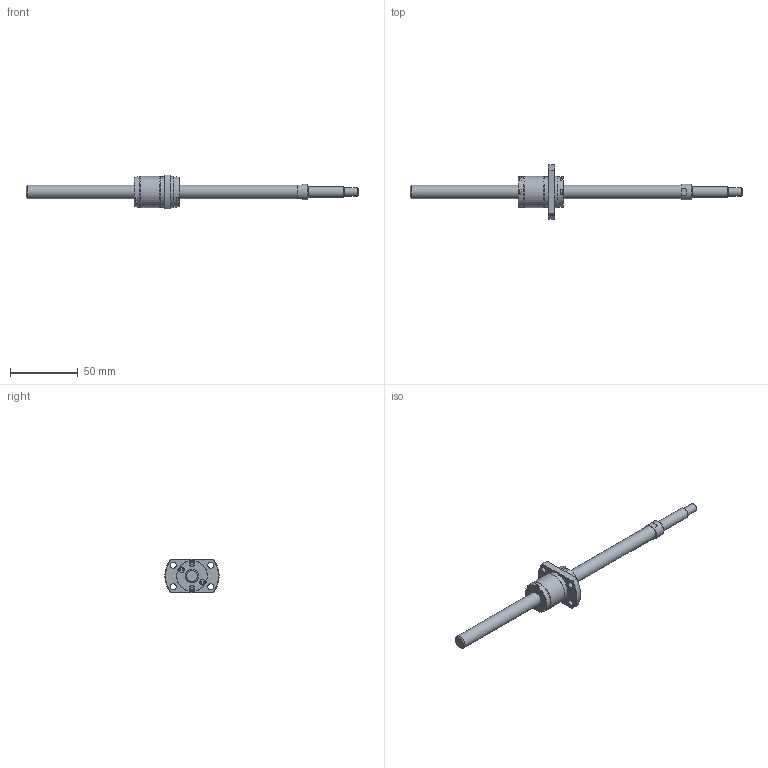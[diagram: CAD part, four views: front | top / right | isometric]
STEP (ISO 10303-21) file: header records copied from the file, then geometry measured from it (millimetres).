
FILE_DESCRIPTION(/* description */ ('STEP AP214'),/* implementation_level */ '2;1');
FILE_NAME(/* name */ 'SRT1015-196R245C7A0X(80Processing)',/* time_stamp */ '2026-08-06T15:11:13+02:00',/* author */ ('License CC BY-ND 4.0'),/* organization */ ('CADENAS'),/* preprocessor_version */ 'ST-DEVELOPER v20',/* originating_system */ 'PARTsolutions',/* authorisation */ ' ');
FILE_SCHEMA (('AUTOMOTIVE_DESIGN {1 0 10303 214 3 1 1}'));
Length unit declared in the file: millimetre
Products named in the file (3): SRT1015-196R245C7A0X(80Processing); SRT1015-196R270ACt7Processing69Shaft; SRT1015Nut
Assembly tree (2 placements, depth 2):
  SRT1015-196R245C7A0X(80Processing)
    SRT1015-196R270ACt7Processing69Shaft
    SRT1015Nut
Bounding box: 245 x 40 x 25 mm (x, y, z)
Volume: 31151.1 mm3; surface area: 13352.3 mm2
Topology: 2 solids, 2 shells, 150 faces, 360 edges, 236 vertices
Faces by surface type: plane 106, cylinder 32, cone 11, torus 1
Full cylindrical faces by diameter (mm): 3.8 x8, 4.5 x4, 6 x1, 8 x1, 10 x2, 11.5 x1, 22.45 x1, 22.5 x2, 23 x2
Entity records: 4267 total; most frequent: CARTESIAN_POINT 737, DIRECTION 718, ORIENTED_EDGE 654, EDGE_CURVE 327, AXIS2_PLACEMENT_3D 246, VERTEX_POINT 233, LINE 226, VECTOR 226
